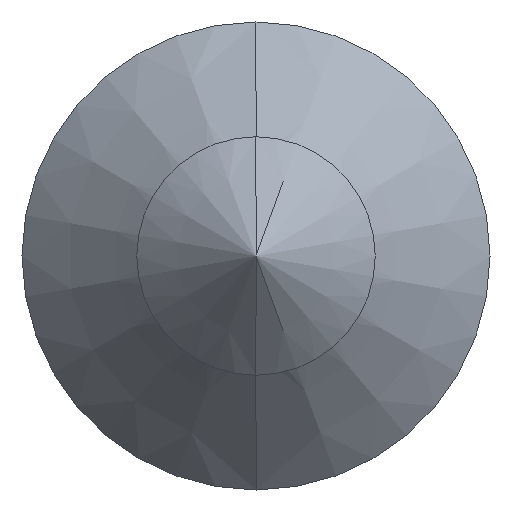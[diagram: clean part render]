
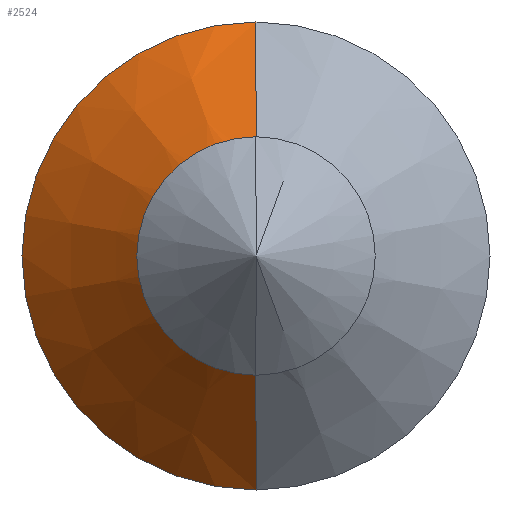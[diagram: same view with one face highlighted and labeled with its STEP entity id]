
A CAD part, left-side view. The second image highlights one B-rep face of the part: STEP entity #2524.
In plain terms, the highlighted conical face has half-angle 45 degrees and reference radius 2.1 mm.
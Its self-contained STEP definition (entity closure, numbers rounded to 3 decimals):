
#2 = VECTOR ( 'NONE', #914, 1000. ) ;
#115 = VERTEX_POINT ( 'NONE', #1680 ) ;
#500 = CARTESIAN_POINT ( 'NONE',  ( -1.345, 0., -2.1 ) ) ;
#648 = ORIENTED_EDGE ( 'NONE', *, *, #861, .T. ) ;
#657 = DIRECTION ( 'NONE',  ( -1., 0., 0. ) ) ;
#670 = VERTEX_POINT ( 'NONE', #1432 ) ;
#792 = CARTESIAN_POINT ( 'NONE',  ( -1.345, 0., 0. ) ) ;
#861 = EDGE_CURVE ( 'NONE', #1326, #1936, #1180, .T. ) ;
#894 = ORIENTED_EDGE ( 'NONE', *, *, #1439, .F. ) ;
#914 = DIRECTION ( 'NONE',  ( 0.707, 0., 0.707 ) ) ;
#993 = CIRCLE ( 'NONE', #2793, 0.87 ) ;
#1062 = EDGE_CURVE ( 'NONE', #670, #115, #1589, .T. ) ;
#1180 = LINE ( 'NONE', #1328, #2 ) ;
#1211 = EDGE_LOOP ( 'NONE', ( #894, #648, #2798, #2824 ) ) ;
#1242 = DIRECTION ( 'NONE',  ( -1., 0., 0. ) ) ;
#1326 = VERTEX_POINT ( 'NONE', #2599 ) ;
#1328 = CARTESIAN_POINT ( 'NONE',  ( -1.345, 0., 2.1 ) ) ;
#1382 = CARTESIAN_POINT ( 'NONE',  ( -1.345, 0., 2.1 ) ) ;
#1411 = AXIS2_PLACEMENT_3D ( 'NONE', #2565, #1242, #2780 ) ;
#1432 = CARTESIAN_POINT ( 'NONE',  ( -2.575, 0., -0.87 ) ) ;
#1433 = AXIS2_PLACEMENT_3D ( 'NONE', #792, #2551, #1668 ) ;
#1439 = EDGE_CURVE ( 'NONE', #1326, #670, #993, .T. ) ;
#1589 = LINE ( 'NONE', #500, #2107 ) ;
#1668 = DIRECTION ( 'NONE',  ( 0., 0., -1. ) ) ;
#1680 = CARTESIAN_POINT ( 'NONE',  ( -1.345, 0., -2.1 ) ) ;
#1936 = VERTEX_POINT ( 'NONE', #1382 ) ;
#1971 = CARTESIAN_POINT ( 'NONE',  ( -2.575, 0., 0. ) ) ;
#2107 = VECTOR ( 'NONE', #2718, 1000. ) ;
#2197 = DIRECTION ( 'NONE',  ( 0., 0., 1. ) ) ;
#2473 = CONICAL_SURFACE ( 'NONE', #1433, 2.1, 0.785 ) ;
#2480 = CIRCLE ( 'NONE', #1411, 2.1 ) ;
#2524 = ADVANCED_FACE ( 'NONE', ( #2550 ), #2473, .T. ) ;
#2537 = EDGE_CURVE ( 'NONE', #1936, #115, #2480, .T. ) ;
#2550 = FACE_OUTER_BOUND ( 'NONE', #1211, .T. ) ;
#2551 = DIRECTION ( 'NONE',  ( 1., 0., 0. ) ) ;
#2565 = CARTESIAN_POINT ( 'NONE',  ( -1.345, 0., 0. ) ) ;
#2599 = CARTESIAN_POINT ( 'NONE',  ( -2.575, 0., 0.87 ) ) ;
#2718 = DIRECTION ( 'NONE',  ( 0.707, 0., -0.707 ) ) ;
#2780 = DIRECTION ( 'NONE',  ( 0., 0., 1. ) ) ;
#2793 = AXIS2_PLACEMENT_3D ( 'NONE', #1971, #657, #2197 ) ;
#2798 = ORIENTED_EDGE ( 'NONE', *, *, #2537, .T. ) ;
#2824 = ORIENTED_EDGE ( 'NONE', *, *, #1062, .F. ) ;
